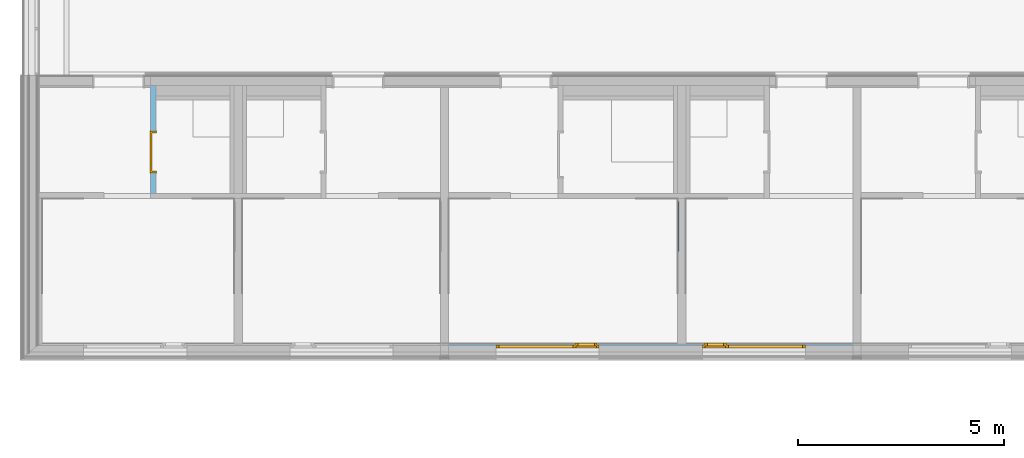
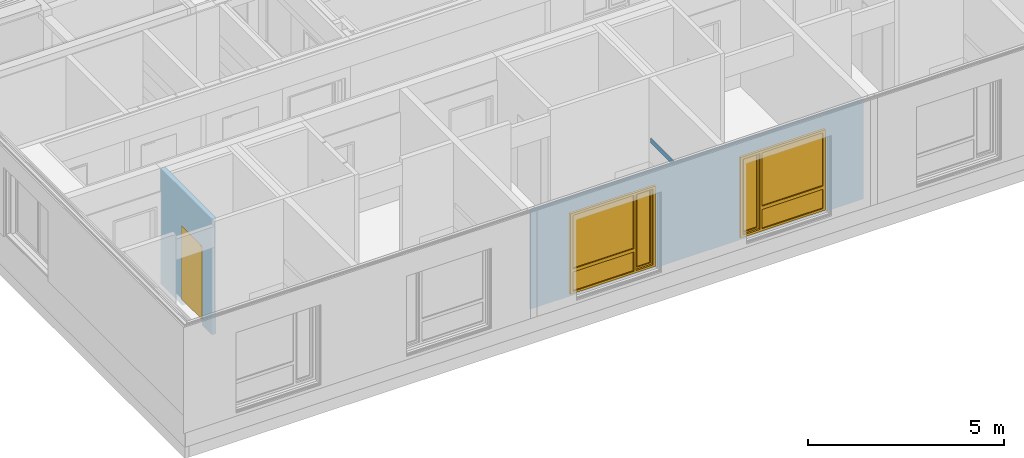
# One storey, part 67 of 207: 2 windows, 1 door, 1 wall, 3 openings, plus 2 elements that do not belong to this part.
"""IFC4 building model written with IfcOpenShell, lengths in metres."""

from ifc_helpers import new_model, entity, si_unit, converted_unit, derived_unit, frame, frame_2d, origin, origin_with_axes, place, context, subcontext, project, spatial, polyline, rectangle, outline, extrude, closed_shell, open_shell, faceted_brep, surface_model, source, transform, mapped, material, type_object, element, fill, save


model = new_model("IFC4")

# Units and contexts
model_context = context("Model", 3, precision=1e-05, world=origin())
body_context = subcontext(model_context, "Body", "Model", "MODEL_VIEW")
ifc_project = project(units=[si_unit("LENGTHUNIT", "METRE"), si_unit("AREAUNIT", "SQUARE_METRE"), si_unit("VOLUMEUNIT", "CUBIC_METRE"), si_unit("MASSUNIT", "GRAM", prefix="KILO"), converted_unit("PLANEANGLEUNIT", "DEGREE", entity("IfcPlaneAngleMeasure", 0.0174532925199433), si_unit("PLANEANGLEUNIT", "RADIAN"), dimensions=[0, 0, 0, 0, 0, 0, 0]), derived_unit("THERMALTRANSMITTANCEUNIT", [(si_unit("POWERUNIT", "WATT"), 1), (si_unit("THERMODYNAMICTEMPERATUREUNIT", "KELVIN"), -1), (si_unit("LENGTHUNIT", "METRE"), -2)]), derived_unit("VOLUMETRICFLOWRATEUNIT", [(si_unit("LENGTHUNIT", "METRE"), 3), (converted_unit("TIMEUNIT", "hour", entity("IfcTimeMeasure", 3600.0), si_unit("TIMEUNIT", "SECOND"), dimensions=[0, 0, 1, 0, 0, 0, 0]), -1), (si_unit("LENGTHUNIT", "METRE"), -1)])], contexts=[model_context])

# Site, building, storey
site_placement = place(None, origin())
site = spatial("IfcSite", under=ifc_project, at=site_placement, Name="Psychiatrie Neubau Wunstorf", CompositionType="ELEMENT")
building_placement = place(site_placement, origin())
building = spatial("IfcBuilding", under=site, at=building_placement, Name="Neubau H2 Stationsgebäude", CompositionType="ELEMENT")
storey_placement = place(building_placement, frame((0.0, 0.0, -0.2)))
storey = spatial("IfcBuildingStorey", under=building, at=storey_placement, Name="H2 Ebene 0", CompositionType="ELEMENT", Elevation=-0.2)

# Wall, openings, windows
ifc_material_1 = material(Name="WA-LB")
wall_1_placement = place(storey_placement, frame((19.9, -2.16399999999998, 0.5), z_axis=(0.0, 0.0, 1.0), x_axis=(-1.0, 1.39208372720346e-16, 0.0)))
wall_1 = element("IfcWall", 1, at=wall_1_placement, inside=storey, material=ifc_material_1, context=body_context, shape_type="SweptSolid", body=[
    extrude(rectangle(XDim=9.8, YDim=0.036, at=frame_2d((4.9, 0.018), x_axis=(1.0, 0.0))), origin_with_axes(), (0.0, 0.0, 1.0), 3.1),
])
opening_1_placement = place(wall_1_placement, frame((1.15, 0.0, 0.1), z_axis=(0.0, 1.0, 0.0), x_axis=(0.0, 0.0, 1.0)))
opening_1 = element("IfcOpeningElement", 2, at=opening_1_placement, cuts=wall_1, Name="Fensteröffnung", ObjectType="Opening", context=body_context, shape_type="SweptSolid", body=[
    extrude(outline(polyline([(2.5, 2.5), (2.5, 0.0), (0.0, 0.0), (0.0, 2.5), (2.5, 2.5)])), origin_with_axes(), (0.0, 0.0, 1.0), 0.036),
])
opening_2_placement = place(wall_1_placement, frame((6.15, 0.0, 0.1), z_axis=(0.0, 1.0, 0.0), x_axis=(0.0, 0.0, 1.0)))
opening_2 = element("IfcOpeningElement", 3, at=opening_2_placement, cuts=wall_1, Name="Fensteröffnung", ObjectType="Opening", context=body_context, shape_type="SweptSolid", body=[
    extrude(outline(polyline([(2.5, 2.5), (2.5, 0.0), (0.0, 0.0), (0.0, 2.5), (2.5, 2.5)])), origin_with_axes(), (0.0, 0.0, 1.0), 0.036),
])
shared_shape_1 = source(origin_with_axes(), body_context, "Body", "SurfaceModel", [
    surface_model("IfcShellBasedSurfaceModel", [(2.5, 0.0, 2.5), (2.5, 0.0, 0.0), (2.43, 0.0, 0.0), (2.43, 0.0, 2.5), (2.5, 0.0699999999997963, 0.0), (2.5, 0.0699999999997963, 2.5), (2.43, 0.0699999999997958, 2.5), (2.43, 0.0699999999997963, 0.0)], [closed_shell([[[0, 1, 2, 3]], [[4, 5, 6, 7]], [[1, 0, 5, 4]], [[2, 1, 4, 7]], [[3, 2, 7, 6]], [[0, 3, 6, 5]]], orient=[[False], [False], [False], [False], [False], [False]])]),
    surface_model("IfcShellBasedSurfaceModel", [(0.07, 0.0, 2.5), (0.07, 0.0, 0.0), (0.0, 0.0, 0.0), (0.0, 0.0, 2.5), (0.07, 0.0699999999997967, 0.0), (0.07, 0.0699999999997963, 2.5), (0.0, 0.0699999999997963, 2.5), (0.0, 0.0699999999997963, 0.0)], [closed_shell([[[0, 1, 2, 3]], [[4, 5, 6, 7]], [[1, 0, 5, 4]], [[2, 1, 4, 7]], [[3, 2, 7, 6]], [[0, 3, 6, 5]]], orient=[[False], [False], [False], [False], [False], [False]])]),
    surface_model("IfcShellBasedSurfaceModel", [(2.43, 0.0, 0.07), (2.43, 0.0, 0.0), (0.07, 0.0, 0.0), (0.07, 0.0, 0.07), (2.43, 0.0699999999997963, 0.0), (2.43, 0.0699999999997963, 0.07), (0.07, 0.0699999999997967, 0.07), (0.07, 0.0699999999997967, 0.0)], [closed_shell([[[0, 1, 2, 3]], [[4, 5, 6, 7]], [[1, 0, 5, 4]], [[2, 1, 4, 7]], [[3, 2, 7, 6]], [[0, 3, 6, 5]]], orient=[[False], [False], [False], [False], [False], [False]])]),
    surface_model("IfcShellBasedSurfaceModel", [(2.43, 0.0, 2.5), (2.43, 0.0, 2.43), (0.07, 0.0, 2.43), (0.07, 0.0, 2.5), (2.43, 0.0699999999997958, 2.43), (2.43, 0.0699999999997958, 2.5), (0.07, 0.0699999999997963, 2.5), (0.07, 0.0699999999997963, 2.43)], [closed_shell([[[0, 1, 2, 3]], [[4, 5, 6, 7]], [[1, 0, 5, 4]], [[2, 1, 4, 7]], [[3, 2, 7, 6]], [[0, 3, 6, 5]]], orient=[[False], [False], [False], [False], [False], [False]])]),
    surface_model("IfcShellBasedSurfaceModel", [(1.934285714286, 0.0, 2.43), (1.934285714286, 0.0, 0.07), (1.864285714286, 0.0, 0.07), (1.864285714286, 0.0, 2.43), (1.934285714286, 0.0699999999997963, 0.07), (1.934285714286, 0.0699999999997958, 2.43), (1.864285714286, 0.0699999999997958, 2.43), (1.864285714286, 0.0699999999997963, 0.07)], [closed_shell([[[0, 1, 2, 3]], [[4, 5, 6, 7]], [[1, 0, 5, 4]], [[2, 1, 4, 7]], [[3, 2, 7, 6]], [[0, 3, 6, 5]]], orient=[[False], [False], [False], [False], [False], [False]])]),
    surface_model("IfcShellBasedSurfaceModel", [(2.45, -0.0500000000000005, 2.45), (2.45, -0.05, 0.05), (2.38, -0.05, 0.05), (2.38, -0.0500000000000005, 2.45), (2.45, 0.0199999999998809, 0.05), (2.45, 0.0199999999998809, 2.45), (2.38, 0.0199999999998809, 2.45), (2.38, 0.0199999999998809, 0.05)], [closed_shell([[[0, 1, 2, 3]], [[4, 5, 6, 7]], [[1, 0, 5, 4]], [[2, 1, 4, 7]], [[3, 2, 7, 6]], [[0, 3, 6, 5]]], orient=[[False], [False], [False], [False], [False], [False]])]),
    surface_model("IfcShellBasedSurfaceModel", [(1.984285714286, -0.0500000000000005, 2.45), (1.984285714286, -0.05, 0.05), (1.914285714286, -0.05, 0.05), (1.914285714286, -0.0500000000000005, 2.45), (1.984285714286, 0.0199999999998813, 0.05), (1.984285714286, 0.0199999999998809, 2.45), (1.914285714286, 0.0199999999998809, 2.45), (1.914285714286, 0.0199999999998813, 0.05)], [closed_shell([[[0, 1, 2, 3]], [[4, 5, 6, 7]], [[1, 0, 5, 4]], [[2, 1, 4, 7]], [[3, 2, 7, 6]], [[0, 3, 6, 5]]], orient=[[False], [False], [False], [False], [False], [False]])]),
    surface_model("IfcShellBasedSurfaceModel", [(2.38, -0.05, 0.12), (2.38, -0.05, 0.05), (1.984285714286, -0.05, 0.05), (1.984285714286, -0.05, 0.12), (2.38, 0.0199999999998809, 0.05), (2.38, 0.0199999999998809, 0.12), (1.984285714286, 0.0199999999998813, 0.12), (1.984285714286, 0.0199999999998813, 0.05)], [closed_shell([[[0, 1, 2, 3]], [[4, 5, 6, 7]], [[1, 0, 5, 4]], [[2, 1, 4, 7]], [[3, 2, 7, 6]], [[0, 3, 6, 5]]], orient=[[False], [False], [False], [False], [False], [False]])]),
    surface_model("IfcShellBasedSurfaceModel", [(2.38, -0.0500000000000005, 2.45), (2.38, -0.0500000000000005, 2.38), (1.984285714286, -0.0500000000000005, 2.38), (1.984285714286, -0.0500000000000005, 2.45), (2.38, 0.0199999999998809, 2.38), (2.38, 0.0199999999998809, 2.45), (1.984285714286, 0.0199999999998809, 2.45), (1.984285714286, 0.0199999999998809, 2.38)], [closed_shell([[[0, 1, 2, 3]], [[4, 5, 6, 7]], [[1, 0, 5, 4]], [[2, 1, 4, 7]], [[3, 2, 7, 6]], [[0, 3, 6, 5]]], orient=[[False], [False], [False], [False], [False], [False]])]),
    surface_model("IfcShellBasedSurfaceModel", [(1.864285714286, 0.0, 0.77), (1.864285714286, 0.0, 0.67), (0.07, 0.0, 0.67), (0.07, 0.0, 0.77), (1.864285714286, 0.0699999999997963, 0.67), (1.864285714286, 0.0699999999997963, 0.77), (0.07, 0.0699999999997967, 0.77), (0.07, 0.0699999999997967, 0.67)], [closed_shell([[[0, 1, 2, 3]], [[4, 5, 6, 7]], [[1, 0, 5, 4]], [[2, 1, 4, 7]], [[3, 2, 7, 6]], [[0, 3, 6, 5]]], orient=[[False], [False], [False], [False], [False], [False]])]),
    surface_model("IfcShellBasedSurfaceModel", [(2.38, -0.0150000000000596, 0.12), (1.984285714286, -0.0150000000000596, 0.12), (1.984285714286, -0.0150000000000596, 2.38), (2.38, -0.01500000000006, 2.38)], [open_shell([[[0, 1, 2, 3]]], orient=[[False]])]),
    surface_model("IfcShellBasedSurfaceModel", [(1.864285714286, 0.0349999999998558, 0.07), (0.07, 0.0349999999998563, 0.07), (0.07, 0.0349999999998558, 0.67), (1.864285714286, 0.0349999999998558, 0.67)], [open_shell([[[0, 1, 2, 3]]], orient=[[False]])]),
    surface_model("IfcShellBasedSurfaceModel", [(1.864285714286, 0.0349999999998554, 0.77), (0.07, 0.0349999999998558, 0.77), (0.07, 0.0349999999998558, 2.43), (1.864285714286, 0.0349999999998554, 2.43)], [open_shell([[[0, 1, 2, 3]]], orient=[[False]])]),
])
window_1_placement = place(opening_1_placement, frame((0.0, 0.0, 0.03), z_axis=(1.0, 0.0, 0.0), x_axis=(0.0, 1.0, -4.26905676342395e-17)))
window_1 = element("IfcWindow", 4, at=window_1_placement, inside=storey, Name="Fenster", OverallHeight=2.5, OverallWidth=2.5, PartitioningType="USERDEFINED", PredefinedType="WINDOW", context=body_context, shape_type="MappedRepresentation", body=[
    mapped(shared_shape_1, transform((0.0, 0.0, 0.0), x_axis=(1.0, 0.0, 0.0), y_axis=(0.0, 1.0, 0.0), z_axis=(0.0, 0.0, 1.0), scale=1.0)),
])
fill(opening_1, window_1)
shared_shape_2 = source(origin_with_axes(), body_context, "Body", "SurfaceModel", [
    surface_model("IfcShellBasedSurfaceModel", [(0.0, 0.0, 2.5), (0.07, 0.0, 2.5), (0.07, 0.0, 0.0), (0.0, 0.0, 0.0), (0.0, 0.0699999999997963, 0.0), (0.07, 0.0699999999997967, 0.0), (0.07, 0.0699999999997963, 2.5), (0.0, 0.0699999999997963, 2.5)], [closed_shell([[[0, 1, 2, 3]], [[4, 5, 6, 7]], [[3, 4, 7, 0]], [[2, 5, 4, 3]], [[1, 6, 5, 2]], [[0, 7, 6, 1]]], orient=[[False], [False], [False], [False], [False], [False]])]),
    surface_model("IfcShellBasedSurfaceModel", [(2.43, 0.0, 2.5), (2.5, 0.0, 2.5), (2.5, 0.0, 0.0), (2.43, 0.0, 0.0), (2.43, 0.0699999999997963, 0.0), (2.5, 0.0699999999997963, 0.0), (2.5, 0.0699999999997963, 2.5), (2.43, 0.0699999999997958, 2.5)], [closed_shell([[[0, 1, 2, 3]], [[4, 5, 6, 7]], [[3, 4, 7, 0]], [[2, 5, 4, 3]], [[1, 6, 5, 2]], [[0, 7, 6, 1]]], orient=[[False], [False], [False], [False], [False], [False]])]),
    surface_model("IfcShellBasedSurfaceModel", [(0.07, 0.0, 0.07), (2.43, 0.0, 0.07), (2.43, 0.0, 0.0), (0.07, 0.0, 0.0), (0.07, 0.0699999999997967, 0.0), (2.43, 0.0699999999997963, 0.0), (2.43, 0.0699999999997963, 0.07), (0.07, 0.0699999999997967, 0.07)], [closed_shell([[[0, 1, 2, 3]], [[4, 5, 6, 7]], [[3, 4, 7, 0]], [[2, 5, 4, 3]], [[1, 6, 5, 2]], [[0, 7, 6, 1]]], orient=[[False], [False], [False], [False], [False], [False]])]),
    surface_model("IfcShellBasedSurfaceModel", [(0.07, 0.0, 2.5), (2.43, 0.0, 2.5), (2.43, 0.0, 2.43), (0.07, 0.0, 2.43), (0.07, 0.0699999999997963, 2.43), (2.43, 0.0699999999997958, 2.43), (2.43, 0.0699999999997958, 2.5), (0.07, 0.0699999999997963, 2.5)], [closed_shell([[[0, 1, 2, 3]], [[4, 5, 6, 7]], [[3, 4, 7, 0]], [[2, 5, 4, 3]], [[1, 6, 5, 2]], [[0, 7, 6, 1]]], orient=[[False], [False], [False], [False], [False], [False]])]),
    surface_model("IfcShellBasedSurfaceModel", [(0.565714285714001, 0.0, 2.43), (0.635714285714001, 0.0, 2.43), (0.635714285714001, 0.0, 0.07), (0.565714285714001, 0.0, 0.07), (0.565714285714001, 0.0699999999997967, 0.07), (0.635714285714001, 0.0699999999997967, 0.07), (0.635714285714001, 0.0699999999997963, 2.43), (0.565714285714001, 0.0699999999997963, 2.43)], [closed_shell([[[0, 1, 2, 3]], [[4, 5, 6, 7]], [[3, 4, 7, 0]], [[2, 5, 4, 3]], [[1, 6, 5, 2]], [[0, 7, 6, 1]]], orient=[[False], [False], [False], [False], [False], [False]])]),
    surface_model("IfcShellBasedSurfaceModel", [(0.05, -0.0500000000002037, 2.45), (0.12, -0.0500000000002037, 2.45), (0.12, -0.0500000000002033, 0.05), (0.05, -0.0500000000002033, 0.05), (0.05, 0.0199999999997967, 0.05), (0.12, 0.0199999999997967, 0.05), (0.12, 0.0199999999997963, 2.45), (0.05, 0.0199999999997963, 2.45)], [closed_shell([[[0, 1, 2, 3]], [[4, 5, 6, 7]], [[3, 4, 7, 0]], [[2, 5, 4, 3]], [[1, 6, 5, 2]], [[0, 7, 6, 1]]], orient=[[False], [False], [False], [False], [False], [False]])]),
    surface_model("IfcShellBasedSurfaceModel", [(0.515714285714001, -0.0500000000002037, 2.45), (0.585714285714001, -0.0500000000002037, 2.45), (0.585714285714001, -0.0500000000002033, 0.05), (0.515714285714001, -0.0500000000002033, 0.05), (0.515714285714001, 0.0199999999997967, 0.05), (0.585714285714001, 0.0199999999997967, 0.05), (0.585714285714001, 0.0199999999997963, 2.45), (0.515714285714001, 0.0199999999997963, 2.45)], [closed_shell([[[0, 1, 2, 3]], [[4, 5, 6, 7]], [[3, 4, 7, 0]], [[2, 5, 4, 3]], [[1, 6, 5, 2]], [[0, 7, 6, 1]]], orient=[[False], [False], [False], [False], [False], [False]])]),
    surface_model("IfcShellBasedSurfaceModel", [(0.12, -0.0500000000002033, 0.12), (0.515714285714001, -0.0500000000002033, 0.12), (0.515714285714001, -0.0500000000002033, 0.05), (0.12, -0.0500000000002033, 0.05), (0.12, 0.0199999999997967, 0.05), (0.515714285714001, 0.0199999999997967, 0.05), (0.515714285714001, 0.0199999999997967, 0.12), (0.12, 0.0199999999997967, 0.12)], [closed_shell([[[0, 1, 2, 3]], [[4, 5, 6, 7]], [[3, 4, 7, 0]], [[2, 5, 4, 3]], [[1, 6, 5, 2]], [[0, 7, 6, 1]]], orient=[[False], [False], [False], [False], [False], [False]])]),
    surface_model("IfcShellBasedSurfaceModel", [(0.12, -0.0500000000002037, 2.45), (0.515714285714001, -0.0500000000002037, 2.45), (0.515714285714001, -0.0500000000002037, 2.38), (0.12, -0.0500000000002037, 2.38), (0.12, 0.0199999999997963, 2.38), (0.515714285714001, 0.0199999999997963, 2.38), (0.515714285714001, 0.0199999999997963, 2.45), (0.12, 0.0199999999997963, 2.45)], [closed_shell([[[0, 1, 2, 3]], [[4, 5, 6, 7]], [[3, 4, 7, 0]], [[2, 5, 4, 3]], [[1, 6, 5, 2]], [[0, 7, 6, 1]]], orient=[[False], [False], [False], [False], [False], [False]])]),
    surface_model("IfcShellBasedSurfaceModel", [(0.635714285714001, 0.0, 0.77), (2.43, 0.0, 0.77), (2.43, 0.0, 0.67), (0.635714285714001, 0.0, 0.67), (0.635714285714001, 0.0699999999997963, 0.67), (2.43, 0.0699999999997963, 0.67), (2.43, 0.0699999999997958, 0.77), (0.635714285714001, 0.0699999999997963, 0.77)], [closed_shell([[[0, 1, 2, 3]], [[4, 5, 6, 7]], [[3, 4, 7, 0]], [[2, 5, 4, 3]], [[1, 6, 5, 2]], [[0, 7, 6, 1]]], orient=[[False], [False], [False], [False], [False], [False]])]),
    surface_model("IfcShellBasedSurfaceModel", [(0.12, -0.0150000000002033, 0.12), (0.12, -0.0150000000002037, 2.38), (0.515714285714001, -0.0150000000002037, 2.38), (0.515714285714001, -0.0150000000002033, 0.12)], [open_shell([[[0, 1, 2, 3]]], orient=[[False]])]),
    surface_model("IfcShellBasedSurfaceModel", [(0.635714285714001, 0.0349999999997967, 0.07), (0.635714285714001, 0.0349999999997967, 0.67), (2.43, 0.0349999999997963, 0.67), (2.43, 0.0349999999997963, 0.07)], [open_shell([[[0, 1, 2, 3]]], orient=[[False]])]),
    surface_model("IfcShellBasedSurfaceModel", [(0.635714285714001, 0.0349999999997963, 0.77), (0.635714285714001, 0.0349999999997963, 2.43), (2.43, 0.0349999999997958, 2.43), (2.43, 0.0349999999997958, 0.77)], [open_shell([[[0, 1, 2, 3]]], orient=[[False]])]),
])
window_2_placement = place(opening_2_placement, frame((0.0, 0.0, 0.03), z_axis=(1.0, 0.0, 0.0), x_axis=(0.0, 1.0, -4.26905676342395e-17)))
window_2 = element("IfcWindow", 5, at=window_2_placement, inside=storey, Name="Fenster", OverallHeight=2.5, OverallWidth=2.5, PartitioningType="USERDEFINED", PredefinedType="WINDOW", context=body_context, shape_type="MappedRepresentation", body=[
    mapped(shared_shape_2, transform((0.0, 0.0, 0.0), x_axis=(1.0, 0.0, 0.0), y_axis=(0.0, 1.0, 0.0), z_axis=(0.0, 0.0, 1.0), scale=1.0)),
])
fill(opening_2, window_2)

# Wall
wall_2_placement = place(storey_placement, frame((15.65, 0.0854496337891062, 1.625)))
element("IfcWall", 6, at=wall_2_placement, inside=storey, Name="WV 1.1", context=body_context, shape_type="Brep", body=[
    faceted_brep([(0.025, 1.2, 0.0), (0.0, 1.2, 0.0), (0.0, 0.0, 0.0), (0.025, 0.0, 0.0), (0.0, 1.2, 0.15), (0.025, 1.2, 0.15), (0.025, 0.0, 0.15), (0.0, 0.0, 0.15)], [[[0, 1, 2, 3]], [[4, 5, 6, 7]], [[1, 0, 5, 4]], [[2, 1, 4, 7]], [[3, 2, 7, 6]], [[0, 3, 6, 5]]], orient=[[False], [False], [False], [False], [False], [False]]),
])

# Wall, opening, door
ifc_material_2 = material(Name="WI-LB")
wall_3_placement = place(storey_placement, frame((2.875, 4.09874963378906, 0.0), z_axis=(0.0, 0.0, 1.0), x_axis=(0.0, -1.0, 0.0)))
wall_3 = element("IfcWall", 7, at=wall_3_placement, inside=storey, material=ifc_material_2, context=body_context, shape_type="SweptSolid", body=[
    extrude(rectangle(XDim=2.615, YDim=0.125, at=frame_2d((1.3075, 0.0625), x_axis=(1.0, 0.0))), origin_with_axes(), (0.0, 0.0, 1.0), 3.6),
])
opening_3_placement = place(wall_3_placement, frame((2.115, 0.125, 0.0), z_axis=(0.0, -1.0, 0.0), x_axis=(0.0, 0.0, 1.0)))
opening_3 = element("IfcOpeningElement", 8, at=opening_3_placement, cuts=wall_3, Name="Türöffnung", ObjectType="Opening", context=body_context, shape_type="SweptSolid", body=[
    extrude(outline(polyline([(2.46, 1.01), (2.46, 0.0), (0.0, 0.0), (0.0, 1.01), (2.46, 1.01)])), origin_with_axes(), (0.0, 0.0, 1.0), 0.125),
])
ifc_material_3 = material(Name="TI-1F-UZ-D-N")
door_type = type_object("IfcDoorType", Name="SMT", OperationType="SINGLE_SWING_RIGHT", ParameterTakesPrecedence=False, PredefinedType="DOOR")
shared_shape_3 = source(origin_with_axes(), body_context, "Body", "Brep", [
    faceted_brep([(1.05, 0.0125000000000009, 0.0), (1.05, 0.112500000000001, 0.0), (1.01, 0.112500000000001, 0.0), (1.01, 0.0125000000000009, 0.0), (1.05, 0.112500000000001, 3.6), (1.05, 0.0125000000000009, 3.6), (1.01, 0.0125000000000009, 3.6), (1.01, 0.112500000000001, 3.6)], [[[0, 1, 2, 3]], [[4, 5, 6, 7]], [[1, 0, 5, 4]], [[2, 1, 4, 7]], [[3, 2, 7, 6]], [[0, 3, 6, 5]]], orient=[[False], [False], [False], [False], [False], [False]]),
    faceted_brep([(0.0, 0.0125000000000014, 0.0), (0.0, 0.112500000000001, 0.0), (-0.0400000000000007, 0.112500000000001, 0.0), (-0.0400000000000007, 0.0125000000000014, 0.0), (0.0, 0.112500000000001, 3.6), (0.0, 0.0125000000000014, 3.6), (-0.0400000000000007, 0.0125000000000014, 3.6), (-0.0400000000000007, 0.112500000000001, 3.6)], [[[0, 1, 2, 3]], [[4, 5, 6, 7]], [[1, 0, 5, 4]], [[2, 1, 4, 7]], [[3, 2, 7, 6]], [[0, 3, 6, 5]]], orient=[[False], [False], [False], [False], [False], [False]]),
    faceted_brep([(1.01, 0.0125000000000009, 2.46), (1.01, 0.112500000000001, 2.46), (0.0, 0.112500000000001, 2.46), (0.0, 0.0125000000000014, 2.46), (1.01, 0.112500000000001, 2.5), (1.01, 0.0125000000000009, 2.5), (0.0, 0.0125000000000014, 2.5), (0.0, 0.112500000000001, 2.5)], [[[0, 1, 2, 3]], [[4, 5, 6, 7]], [[1, 0, 5, 4]], [[2, 1, 4, 7]], [[3, 2, 7, 6]], [[0, 3, 6, 5]]], orient=[[False], [False], [False], [False], [False], [False]]),
])
shared_shape_4 = source(origin_with_axes(), body_context, "Body", "Brep", [
    faceted_brep([(1.01, -0.0149999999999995, 2.46), (1.01, -0.0149999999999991, 0.2), (0.969999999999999, -0.0149999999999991, 0.2), (0.969999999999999, -0.0149999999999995, 2.46), (1.01, 0.140000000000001, 0.2), (1.01, 0.14, 2.46), (0.969999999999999, 0.14, 2.46), (0.969999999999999, 0.140000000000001, 0.2)], [[[0, 1, 2, 3]], [[4, 5, 6, 7]], [[1, 0, 5, 4]], [[2, 1, 4, 7]], [[3, 2, 7, 6]], [[0, 3, 6, 5]]], orient=[[False], [False], [False], [False], [False], [False]]),
    faceted_brep([(1.01, -0.0149999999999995, 2.475), (1.025, -0.0149999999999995, 2.475), (1.025, -0.0149999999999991, 0.2), (1.01, -0.0149999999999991, 0.2), (1.01, 0.0, 0.2), (1.025, 0.0, 0.2), (1.025, 0.0, 2.475), (1.01, 0.0, 2.475)], [[[0, 1, 2, 3]], [[4, 5, 6, 7]], [[3, 4, 7, 0]], [[2, 5, 4, 3]], [[1, 6, 5, 2]], [[0, 7, 6, 1]]], orient=[[False], [False], [False], [False], [False], [False]]),
    faceted_brep([(1.01, 0.125, 2.475), (1.025, 0.125, 2.475), (1.025, 0.125000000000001, 0.2), (1.01, 0.125000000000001, 0.2), (1.01, 0.140000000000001, 0.2), (1.025, 0.140000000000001, 0.2), (1.025, 0.14, 2.475), (1.01, 0.14, 2.475)], [[[0, 1, 2, 3]], [[4, 5, 6, 7]], [[3, 4, 7, 0]], [[2, 5, 4, 3]], [[1, 6, 5, 2]], [[0, 7, 6, 1]]], orient=[[False], [False], [False], [False], [False], [False]]),
    faceted_brep([(0.0399999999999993, -0.0149999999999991, 2.46), (0.0399999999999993, -0.0149999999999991, 0.2), (0.0, -0.0149999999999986, 0.2), (0.0, -0.0149999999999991, 2.46), (0.0399999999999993, 0.140000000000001, 0.2), (0.0399999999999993, 0.140000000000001, 2.46), (0.0, 0.140000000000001, 2.46), (0.0, 0.140000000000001, 0.2)], [[[0, 1, 2, 3]], [[4, 5, 6, 7]], [[1, 0, 5, 4]], [[2, 1, 4, 7]], [[3, 2, 7, 6]], [[0, 3, 6, 5]]], orient=[[False], [False], [False], [False], [False], [False]]),
    faceted_brep([(0.0, -0.0149999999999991, 2.475), (0.0, -0.0149999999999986, 0.2), (-0.0150000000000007, -0.0149999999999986, 0.2), (-0.0150000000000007, -0.0149999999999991, 2.475), (0.0, 0.0, 0.2), (0.0, 0.0, 2.475), (-0.0150000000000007, 0.0, 2.475), (-0.0150000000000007, 0.0, 0.2)], [[[0, 1, 2, 3]], [[4, 5, 6, 7]], [[1, 0, 5, 4]], [[2, 1, 4, 7]], [[3, 2, 7, 6]], [[0, 3, 6, 5]]], orient=[[False], [False], [False], [False], [False], [False]]),
    faceted_brep([(0.0, 0.125000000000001, 2.475), (0.0, 0.125000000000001, 0.2), (-0.0150000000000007, 0.125000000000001, 0.2), (-0.0150000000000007, 0.125000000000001, 2.475), (0.0, 0.140000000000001, 0.2), (0.0, 0.140000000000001, 2.475), (-0.0150000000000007, 0.140000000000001, 2.475), (-0.0150000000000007, 0.140000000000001, 0.2)], [[[0, 1, 2, 3]], [[4, 5, 6, 7]], [[1, 0, 5, 4]], [[2, 1, 4, 7]], [[3, 2, 7, 6]], [[0, 3, 6, 5]]], orient=[[False], [False], [False], [False], [False], [False]]),
    faceted_brep([(0.969999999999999, -0.0149999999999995, 2.46), (0.969999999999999, -0.0149999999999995, 2.42), (0.0399999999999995, -0.0149999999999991, 2.42), (0.0399999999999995, -0.0149999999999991, 2.46), (0.969999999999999, 0.14, 2.42), (0.969999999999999, 0.14, 2.46), (0.0399999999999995, 0.140000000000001, 2.46), (0.0399999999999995, 0.140000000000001, 2.42)], [[[0, 1, 2, 3]], [[4, 5, 6, 7]], [[1, 0, 5, 4]], [[2, 1, 4, 7]], [[3, 2, 7, 6]], [[0, 3, 6, 5]]], orient=[[False], [False], [False], [False], [False], [False]]),
    faceted_brep([(1.01, -0.0149999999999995, 2.475), (1.01, -0.0149999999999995, 2.46), (0.0, -0.0149999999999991, 2.46), (0.0, -0.0149999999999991, 2.475), (1.01, 0.0, 2.46), (1.01, 0.0, 2.475), (0.0, 0.0, 2.475), (0.0, 0.0, 2.46)], [[[0, 1, 2, 3]], [[4, 5, 6, 7]], [[1, 0, 5, 4]], [[2, 1, 4, 7]], [[3, 2, 7, 6]], [[0, 3, 6, 5]]], orient=[[False], [False], [False], [False], [False], [False]]),
    faceted_brep([(1.01, 0.125, 2.475), (1.01, 0.125, 2.46), (0.0, 0.125000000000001, 2.46), (0.0, 0.125000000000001, 2.475), (1.01, 0.14, 2.46), (1.01, 0.14, 2.475), (0.0, 0.140000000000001, 2.475), (0.0, 0.140000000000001, 2.46)], [[[0, 1, 2, 3]], [[4, 5, 6, 7]], [[1, 0, 5, 4]], [[2, 1, 4, 7]], [[3, 2, 7, 6]], [[0, 3, 6, 5]]], orient=[[False], [False], [False], [False], [False], [False]]),
    faceted_brep([(0.984999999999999, 0.0910000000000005, 2.435), (0.984999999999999, 0.0910000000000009, 0.2), (0.0249999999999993, 0.0910000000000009, 0.2), (0.0249999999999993, 0.0910000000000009, 2.435), (0.984999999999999, 0.141000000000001, 0.2), (0.984999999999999, 0.141, 2.435), (0.0249999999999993, 0.141000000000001, 2.435), (0.0249999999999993, 0.141000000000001, 0.2)], [[[0, 1, 2, 3]], [[4, 5, 6, 7]], [[1, 0, 5, 4]], [[2, 1, 4, 7]], [[3, 2, 7, 6]], [[0, 3, 6, 5]]], orient=[[False], [False], [False], [False], [False], [False]]),
])
door_placement = place(opening_3_placement, frame((0.0, 0.0, 0.0), z_axis=(1.0, 0.0, 0.0), x_axis=(0.0, 1.0, 0.0)))
door = element("IfcDoor", 9, at=door_placement, inside=storey, type_object=door_type, material=ifc_material_3, Name="SMT", OverallHeight=2.46, OverallWidth=1.01, context=body_context, shape_type="MappedRepresentation", body=[
    mapped(shared_shape_3, transform((0.0, 0.0, 0.0), x_axis=(1.0, 0.0, 0.0), y_axis=(0.0, 1.0, 0.0), z_axis=(0.0, 0.0, 1.0), scale=1.0)),
    mapped(shared_shape_4, transform((0.0, 0.0, 0.0), x_axis=(1.0, 0.0, 0.0), y_axis=(0.0, 1.0, 0.0), z_axis=(0.0, 0.0, 1.0), scale=1.0)),
])
fill(opening_3, door)

save(model, "model.ifc")
